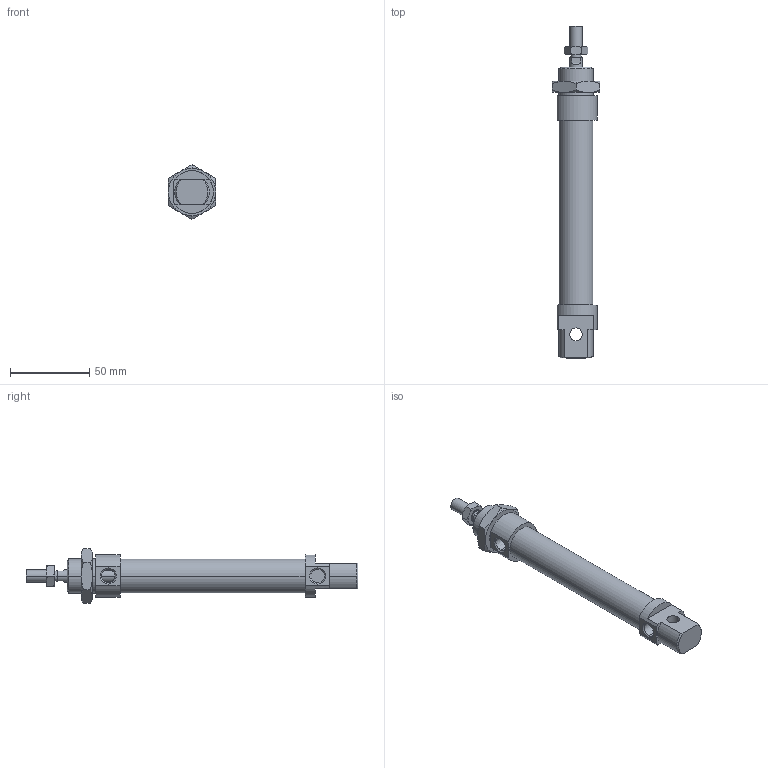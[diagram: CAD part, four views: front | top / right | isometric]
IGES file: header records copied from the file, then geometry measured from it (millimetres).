
Global section: file name: No Iges File Name specified; native system: AutoDesk Inventor R6.0; preprocessor: AutoDesk Inventor Iges Exporter R6.0; author: No Author specified; organization: No Organization specified; date: 20030407.191333; units: millimetre
Bounding box: 30 x 210 x 34.64 mm (x, y, z)
Volume: 72595.9 mm3; surface area: 23880.8 mm2
Topology: 4 solids, 4 shells, 124 faces, 281 edges, 170 vertices
Faces by surface type: plane 41, cone 38, bspline 21, cylinder 18, revolution 6
